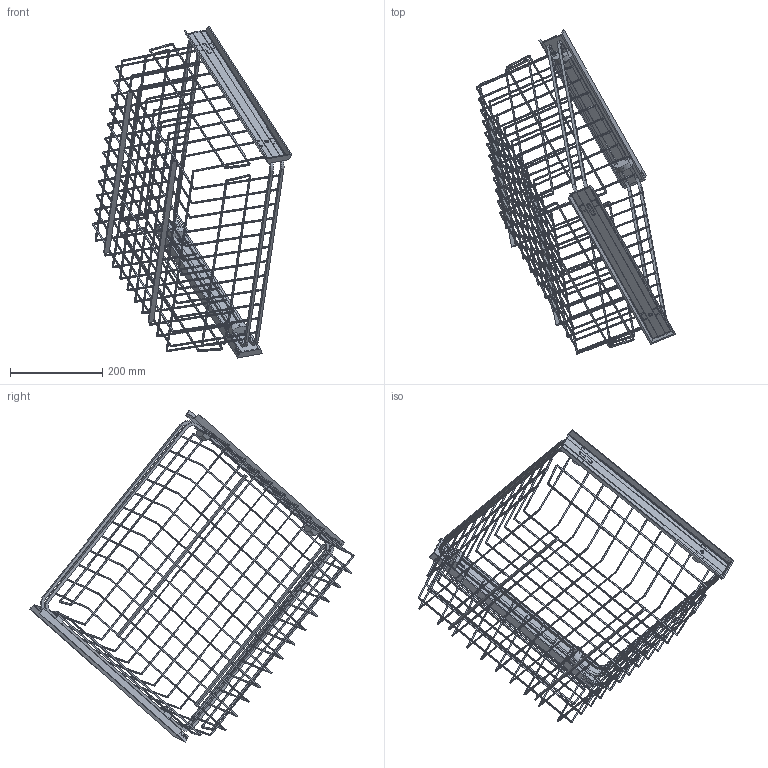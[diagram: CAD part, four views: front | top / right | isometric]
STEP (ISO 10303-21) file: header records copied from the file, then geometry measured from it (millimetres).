
FILE_DESCRIPTION(/* description */ (''),/* implementation_level */ '2;1');
FILE_NAME(/* name */ 'D:\$Workingspace\Designs\Meblowka\uproszczenia\garderoba smart\W-WKO…-without slides.stp',/* time_stamp */ '2019-01-02T08:54:40+01:00',/* author */ ('tomaszw'),/* organization */ (''),/* preprocessor_version */ 'ST-DEVELOPER v17',/* originating_system */ 'Autodesk Inventor 2019',/* authorisation */ '');
FILE_SCHEMA (('AUTOMOTIVE_DESIGN { 1 0 10303 214 3 1 1 }'));
Length unit declared in the file: millimetre
Products named in the file (13): złożenie z koszem 11_2017; GTV_D_01; drut dół; drut 2,4 po długości; wzmocnienie 2,8 długości; wzmocnienie 2,8 długości_1; wzmocnienie dołu 3x12; drut 2,4 po długości_1; drut 2,4 po długości2; drut 2,4 po długości4; PPD_2; DD_3_01; MD_1_02
Assembly tree (41 placements, depth 3):
  złożenie z koszem 11_2017
    PPD_2  x2
    DD_3_01  x4
    MD_1_02  x4
    GTV_D_01
      drut dół  x2
      drut 2,4 po długości  x12
      wzmocnienie 2,8 długości_1  x2
      wzmocnienie 2,8 długości  x2
      wzmocnienie dołu 3x12  x2
      drut 2,4 po długości_1  x2
      drut 2,4 po długości2
      drut 2,4 po długości4  x7
Bounding box: 433.44 x 704.71 x 720.98 mm (x, y, z)
Volume: 530186.3 mm3; surface area: 551448.9 mm2
Topology: 40 solids, 40 shells, 1404 faces, 3772 edges, 2520 vertices
Faces by surface type: plane 1116, bspline 172, cylinder 112, cone 4
Full cylindrical faces by diameter (mm): 4.3 x6, 8.3 x2
Entity records: 13771 total; most frequent: CARTESIAN_POINT 3034, ORIENTED_EDGE 2202, DIRECTION 1917, EDGE_CURVE 1101, LINE 919, VECTOR 919, VERTEX_POINT 732, AXIS2_PLACEMENT_3D 499
